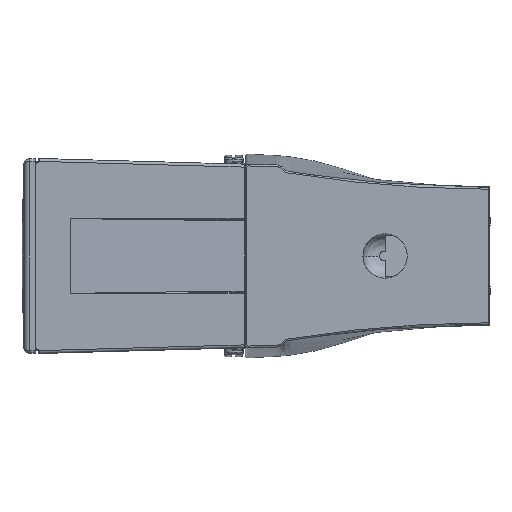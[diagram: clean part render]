
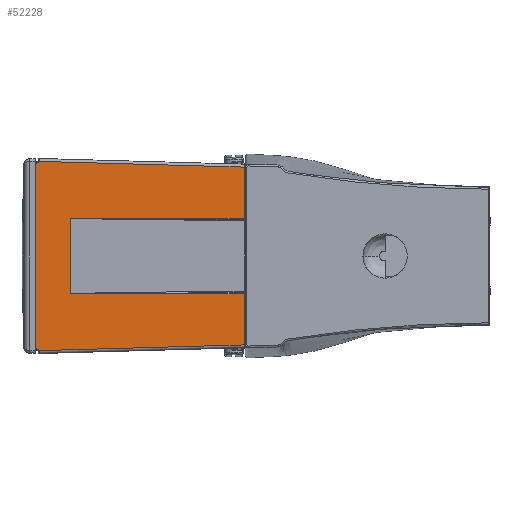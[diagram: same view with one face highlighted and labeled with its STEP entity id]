
A CAD part, left-side view. The second image highlights one B-rep face of the part: STEP entity #52228.
In plain terms, the highlighted planar face has unit normal (-1, 0, 0) as drawn and (0, 0, -1) by its records, which use the part's own axes.
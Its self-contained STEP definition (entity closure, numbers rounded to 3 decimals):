
#86 = CARTESIAN_POINT ( 'NONE',  ( 64.99, 299.997, -60. ) ) ;
#153 = CARTESIAN_POINT ( 'NONE',  ( -64.988, 299.997, -60. ) ) ;
#277 = VERTEX_POINT ( 'NONE', #46240 ) ;
#335 = VECTOR ( 'NONE', #9954, 1000. ) ;
#484 = CARTESIAN_POINT ( 'NONE',  ( -167.5, 360., -60. ) ) ;
#706 = CARTESIAN_POINT ( 'NONE',  ( -64.977, 300., -60. ) ) ;
#1335 = ORIENTED_EDGE ( 'NONE', *, *, #6763, .T. ) ;
#1695 = LINE ( 'NONE', #43122, #12916 ) ;
#1973 = ORIENTED_EDGE ( 'NONE', *, *, #2592, .T. ) ;
#1982 = CARTESIAN_POINT ( 'NONE',  ( -152.554, 2., -60. ) ) ;
#2462 = VECTOR ( 'NONE', #53057, 1000. ) ;
#2592 = EDGE_CURVE ( 'NONE', #3442, #51670, #12207, .T. ) ;
#3012 = VERTEX_POINT ( 'NONE', #32318 ) ;
#3442 = VERTEX_POINT ( 'NONE', #16763 ) ;
#4180 = CARTESIAN_POINT ( 'NONE',  ( 65., 299.99, -60. ) ) ;
#4283 = CARTESIAN_POINT ( 'NONE',  ( -64.987, 299.998, -60. ) ) ;
#4432 = LINE ( 'NONE', #21174, #13632 ) ;
#5295 = DIRECTION ( 'NONE',  ( -0.028, -1., 0. ) ) ;
#5302 = CARTESIAN_POINT ( 'NONE',  ( -162.318, 353.516, -60. ) ) ;
#6046 = ORIENTED_EDGE ( 'NONE', *, *, #28833, .T. ) ;
#6086 = EDGE_CURVE ( 'NONE', #39671, #15852, #4432, .T. ) ;
#6373 = DIRECTION ( 'NONE',  ( -1., 0., 0. ) ) ;
#6763 = EDGE_CURVE ( 'NONE', #3012, #3442, #37061, .T. ) ;
#7282 = VECTOR ( 'NONE', #42718, 1000. ) ;
#7364 = VERTEX_POINT ( 'NONE', #5302 ) ;
#7635 = ORIENTED_EDGE ( 'NONE', *, *, #30816, .T. ) ;
#7772 = EDGE_CURVE ( 'NONE', #44499, #18820, #8429, .T. ) ;
#8429 = LINE ( 'NONE', #53975, #14124 ) ;
#9484 = CARTESIAN_POINT ( 'NONE',  ( -64.982, 299.999, -60. ) ) ;
#9954 = DIRECTION ( 'NONE',  ( -0.028, 1., 0. ) ) ;
#10062 = CARTESIAN_POINT ( 'NONE',  ( 65., 2., -60. ) ) ;
#12102 = ORIENTED_EDGE ( 'NONE', *, *, #26447, .T. ) ;
#12207 = LINE ( 'NONE', #50062, #23380 ) ;
#12787 = CARTESIAN_POINT ( 'NONE',  ( -64.99, 299.997, -60. ) ) ;
#12849 = PLANE ( 'NONE',  #47914 ) ;
#12916 = VECTOR ( 'NONE', #30235, 1000. ) ;
#12988 = CARTESIAN_POINT ( 'NONE',  ( 64.989, 299.997, -60. ) ) ;
#13602 = CARTESIAN_POINT ( 'NONE',  ( -64.994, 299.995, -60. ) ) ;
#13608 = VERTEX_POINT ( 'NONE', #4180 ) ;
#13632 = VECTOR ( 'NONE', #42816, 1000. ) ;
#14124 = VECTOR ( 'NONE', #25160, 1000. ) ;
#14657 = ORIENTED_EDGE ( 'NONE', *, *, #40297, .T. ) ;
#14776 = CARTESIAN_POINT ( 'NONE',  ( 64.972, 300., -60. ) ) ;
#15007 = CARTESIAN_POINT ( 'NONE',  ( 159.532, 357.913, -60. ) ) ;
#15500 = LINE ( 'NONE', #41231, #2462 ) ;
#15852 = VERTEX_POINT ( 'NONE', #20590 ) ;
#16763 = CARTESIAN_POINT ( 'NONE',  ( 152.554, 2., -60. ) ) ;
#16859 = CIRCLE ( 'NONE', #36102, 5. ) ;
#17249 = DIRECTION ( 'NONE',  ( 0., 0., -1. ) ) ;
#17395 = CARTESIAN_POINT ( 'NONE',  ( 64.972, 300., -60. ) ) ;
#17708 = CARTESIAN_POINT ( 'NONE',  ( -64.972, 300., -60. ) ) ;
#17727 = CARTESIAN_POINT ( 'NONE',  ( -64.972, 300., -60. ) ) ;
#18040 = CARTESIAN_POINT ( 'NONE',  ( 65., 360., -60. ) ) ;
#18210 = CARTESIAN_POINT ( 'NONE',  ( -162.502, 360.139, -60. ) ) ;
#18820 = VERTEX_POINT ( 'NONE', #17708 ) ;
#20236 = VERTEX_POINT ( 'NONE', #21492 ) ;
#20590 = CARTESIAN_POINT ( 'NONE',  ( -65., 2., -60. ) ) ;
#20664 = VECTOR ( 'NONE', #27575, 1000. ) ;
#20955 = CARTESIAN_POINT ( 'NONE',  ( 65., 299.99, -60. ) ) ;
#21024 = CARTESIAN_POINT ( 'NONE',  ( -65., 299.99, -60. ) ) ;
#21174 = CARTESIAN_POINT ( 'NONE',  ( -65., 0., -60. ) ) ;
#21229 = CARTESIAN_POINT ( 'NONE',  ( 64.989, 299.997, -60. ) ) ;
#21492 = CARTESIAN_POINT ( 'NONE',  ( 159.495, 360., -60. ) ) ;
#23380 = VECTOR ( 'NONE', #37420, 1000. ) ;
#23435 = EDGE_LOOP ( 'NONE', ( #36614, #27305, #6046, #48837, #33133, #42999, #44975, #24393, #1335, #1973, #12102, #14657, #26732, #7635 ) ) ;
#23545 = EDGE_CURVE ( 'NONE', #40573, #3012, #16859, .T. ) ;
#24393 = ORIENTED_EDGE ( 'NONE', *, *, #23545, .T. ) ;
#24545 = CARTESIAN_POINT ( 'NONE',  ( 159.532, 357.913, -60. ) ) ;
#25160 = DIRECTION ( 'NONE',  ( -1., 0., 0. ) ) ;
#26447 = EDGE_CURVE ( 'NONE', #51670, #13608, #30096, .T. ) ;
#26732 = ORIENTED_EDGE ( 'NONE', *, *, #7772, .T. ) ;
#27030 = LINE ( 'NONE', #50446, #50381 ) ;
#27099 = VERTEX_POINT ( 'NONE', #34363 ) ;
#27305 = ORIENTED_EDGE ( 'NONE', *, *, #40926, .T. ) ;
#27575 = DIRECTION ( 'NONE',  ( 0.017, -1., 0. ) ) ;
#28649 = LINE ( 'NONE', #24545, #20664 ) ;
#28833 = EDGE_CURVE ( 'NONE', #31287, #7364, #51911, .T. ) ;
#29429 = CARTESIAN_POINT ( 'NONE',  ( 64.977, 300., -60. ) ) ;
#30096 = LINE ( 'NONE', #18040, #7282 ) ;
#30126 = DIRECTION ( 'NONE',  ( -1., 0., 0. ) ) ;
#30235 = DIRECTION ( 'NONE',  ( -1., 0., 0. ) ) ;
#30816 = EDGE_CURVE ( 'NONE', #18820, #39671, #46451, .T. ) ;
#31287 = VERTEX_POINT ( 'NONE', #1982 ) ;
#31865 = CARTESIAN_POINT ( 'NONE',  ( -164.531, 358., -60. ) ) ;
#32318 = CARTESIAN_POINT ( 'NONE',  ( 162.318, 353.516, -60. ) ) ;
#32884 = DIRECTION ( 'NONE',  ( 1., 0., 0. ) ) ;
#33133 = ORIENTED_EDGE ( 'NONE', *, *, #38850, .T. ) ;
#33814 = CARTESIAN_POINT ( 'NONE',  ( 64.983, 299.999, -60. ) ) ;
#33860 = B_SPLINE_CURVE_WITH_KNOTS ( 'NONE', 3,
 ( #20955, #37388, #42049, #37655, #86, #12988, #21229, #33814, #29429, #17395 ),
 .UNSPECIFIED., .F., .F.,
 ( 4, 3, 3, 4 ),
 ( 0., 0., 0., 0. ),
 .UNSPECIFIED. ) ;
#34258 = DIRECTION ( 'NONE',  ( 0., 0., 1. ) ) ;
#34363 = CARTESIAN_POINT ( 'NONE',  ( -159.495, 360., -60. ) ) ;
#36102 = AXIS2_PLACEMENT_3D ( 'NONE', #38362, #34258, #46604 ) ;
#36614 = ORIENTED_EDGE ( 'NONE', *, *, #6086, .T. ) ;
#37061 = LINE ( 'NONE', #53809, #52185 ) ;
#37388 = CARTESIAN_POINT ( 'NONE',  ( 64.997, 299.992, -60. ) ) ;
#37420 = DIRECTION ( 'NONE',  ( -1., 0., 0. ) ) ;
#37655 = CARTESIAN_POINT ( 'NONE',  ( 64.991, 299.996, -60. ) ) ;
#38362 = CARTESIAN_POINT ( 'NONE',  ( 164.531, 358., -60. ) ) ;
#38850 = EDGE_CURVE ( 'NONE', #277, #27099, #15500, .T. ) ;
#39671 = VERTEX_POINT ( 'NONE', #51838 ) ;
#40118 = AXIS2_PLACEMENT_3D ( 'NONE', #31865, #43948, #6373 ) ;
#40297 = EDGE_CURVE ( 'NONE', #13608, #44499, #33860, .T. ) ;
#40573 = VERTEX_POINT ( 'NONE', #15007 ) ;
#40926 = EDGE_CURVE ( 'NONE', #15852, #31287, #1695, .T. ) ;
#41231 = CARTESIAN_POINT ( 'NONE',  ( -159.496, 359.965, -60. ) ) ;
#42049 = CARTESIAN_POINT ( 'NONE',  ( 64.994, 299.995, -60. ) ) ;
#42388 = CARTESIAN_POINT ( 'NONE',  ( -64.997, 299.992, -60. ) ) ;
#42718 = DIRECTION ( 'NONE',  ( 0., 1., 0. ) ) ;
#42752 = CIRCLE ( 'NONE', #40118, 5. ) ;
#42816 = DIRECTION ( 'NONE',  ( 0., -1., 0. ) ) ;
#42999 = ORIENTED_EDGE ( 'NONE', *, *, #46621, .F. ) ;
#43122 = CARTESIAN_POINT ( 'NONE',  ( -152.498, 2., -60. ) ) ;
#43948 = DIRECTION ( 'NONE',  ( 0., 0., 1. ) ) ;
#44499 = VERTEX_POINT ( 'NONE', #14776 ) ;
#44975 = ORIENTED_EDGE ( 'NONE', *, *, #49084, .T. ) ;
#46240 = CARTESIAN_POINT ( 'NONE',  ( -159.532, 357.913, -60. ) ) ;
#46451 = B_SPLINE_CURVE_WITH_KNOTS ( 'NONE', 3,
 ( #17727, #706, #9484, #4283, #153, #12787, #46783, #13602, #42388, #21024 ),
 .UNSPECIFIED., .F., .F.,
 ( 4, 3, 3, 4 ),
 ( 0., 0., 0., 0. ),
 .UNSPECIFIED. ) ;
#46604 = DIRECTION ( 'NONE',  ( -1., 0., 0. ) ) ;
#46621 = EDGE_CURVE ( 'NONE', #20236, #27099, #27030, .T. ) ;
#46783 = CARTESIAN_POINT ( 'NONE',  ( -64.991, 299.996, -60. ) ) ;
#47914 = AXIS2_PLACEMENT_3D ( 'NONE', #484, #17249, #32884 ) ;
#48837 = ORIENTED_EDGE ( 'NONE', *, *, #52981, .T. ) ;
#49084 = EDGE_CURVE ( 'NONE', #20236, #40573, #28649, .T. ) ;
#50062 = CARTESIAN_POINT ( 'NONE',  ( 65., 2., -60. ) ) ;
#50381 = VECTOR ( 'NONE', #30126, 1000. ) ;
#50446 = CARTESIAN_POINT ( 'NONE',  ( -167.5, 360., -60. ) ) ;
#50699 = FACE_OUTER_BOUND ( 'NONE', #23435, .T. ) ;
#51670 = VERTEX_POINT ( 'NONE', #10062 ) ;
#51838 = CARTESIAN_POINT ( 'NONE',  ( -65., 299.99, -60. ) ) ;
#51911 = LINE ( 'NONE', #18210, #335 ) ;
#52185 = VECTOR ( 'NONE', #5295, 1000. ) ;
#52228 = ADVANCED_FACE ( 'NONE', ( #50699 ), #12849, .T. ) ;
#52981 = EDGE_CURVE ( 'NONE', #7364, #277, #42752, .T. ) ;
#53057 = DIRECTION ( 'NONE',  ( 0.017, 1., 0. ) ) ;
#53809 = CARTESIAN_POINT ( 'NONE',  ( 162.244, 350.84, -60. ) ) ;
#53975 = CARTESIAN_POINT ( 'NONE',  ( 62., 300., -60. ) ) ;
